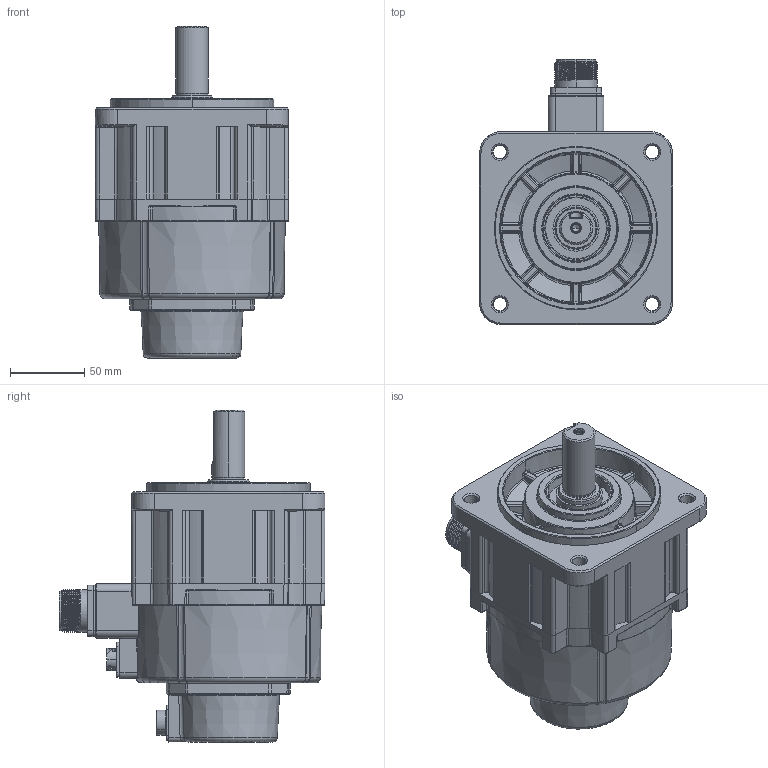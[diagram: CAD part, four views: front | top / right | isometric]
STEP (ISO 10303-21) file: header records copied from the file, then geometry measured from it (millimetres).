
FILE_DESCRIPTION((''),'2;1');
FILE_NAME('ECM-E3M-EX1310SSE_ASM','2024-03-22T15:38:44',('KUAN.WEI.SHIH'),(''),'CREO PARAMETRIC BY PTC INC, 2020454','CREO PARAMETRIC BY PTC INC, 2020454','');
FILE_SCHEMA(('CONFIG_CONTROL_DESIGN'));
Products named in the file (6): ECM-E3M-EX1310SSE_00__SW0001; MS3102A18-10P_2_1; MS3102A18-10P_2_2; MS3102A18-10P_2_ASM; SC-CMV1-R02P; ECM-E3M-EX1310SSE_ASM
Assembly tree (5 placements, depth 3):
  ECM-E3M-EX1310SSE_ASM
    ECM-E3M-EX1310SSE_00__SW0001
    MS3102A18-10P_2_ASM
      MS3102A18-10P_2_1
      MS3102A18-10P_2_2
    SC-CMV1-R02P
Bounding box: 130 x 178.9 x 223.5 mm (x, y, z)
Volume: 1938405.9 mm3; surface area: 170474.9 mm2
Topology: 6 solids, 27 shells, 3514 faces, 9147 edges, 5778 vertices
Faces by surface type: plane 1577, cylinder 886, cone 364, bspline 362, torus 192, sphere 91, extrusion 42
Entity records: 127917 total; most frequent: CARTESIAN_POINT 44266, ORIENTED_EDGE 17997, DIRECTION 16516, EDGE_CURVE 9035, VERTEX_POINT 5778, AXIS2_PLACEMENT_3D 5759, VECTOR 4998, LINE 4956
